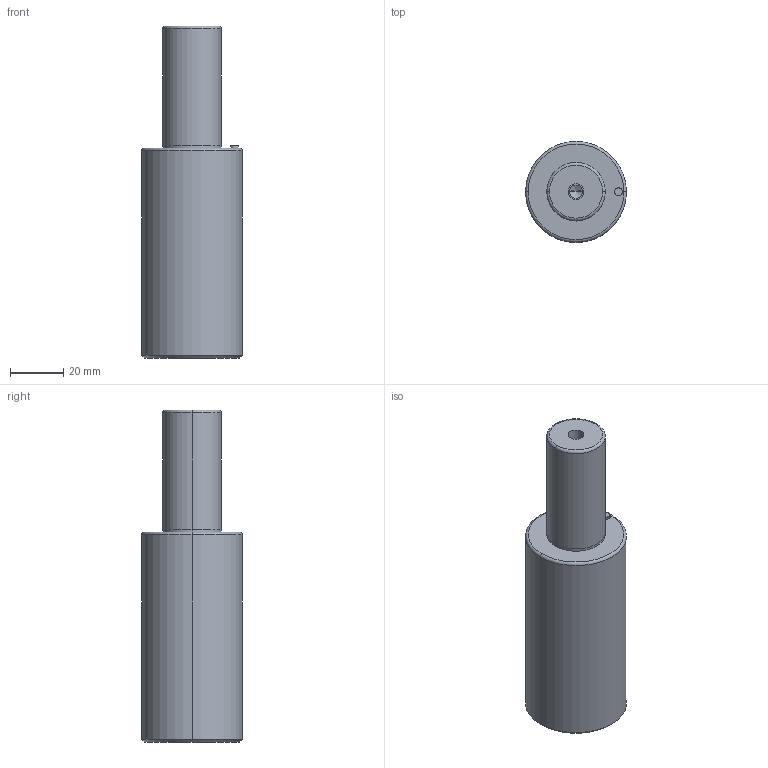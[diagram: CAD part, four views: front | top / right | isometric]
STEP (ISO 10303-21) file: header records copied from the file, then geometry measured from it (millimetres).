
FILE_DESCRIPTION(/* description */ (''),/* implementation_level */ '2;1');
FILE_NAME(/* name */ '3d_gsc38-45_03840_r00.stp',/* time_stamp */ '2011-01-10T14:15:21+09:00',/* author */ ('MISUMI'),/* organization */ (''),/* preprocessor_version */ 'ST-DEVELOPER v11',/* originating_system */ 'UGS - NX 5.0',/* authorisation */ '');
FILE_SCHEMA (('CONFIG_CONTROL_DESIGN'));
Length unit declared in the file: millimetre
Products named in the file (1): 3d_gsc38-45_03840_r00
Bounding box: 38 x 38 x 125 mm (x, y, z)
Volume: 105923 mm3; surface area: 15328.6 mm2
Topology: 1 solids, 1 shells, 32 faces, 66 edges, 38 vertices
Faces by surface type: cylinder 16, cone 6, plane 6, torus 4
Entity records: 912 total; most frequent: DIRECTION 168, CARTESIAN_POINT 133, ORIENTED_EDGE 124, AXIS2_PLACEMENT_3D 73, EDGE_CURVE 62, CIRCLE 40, EDGE_LOOP 38, VERTEX_POINT 38
